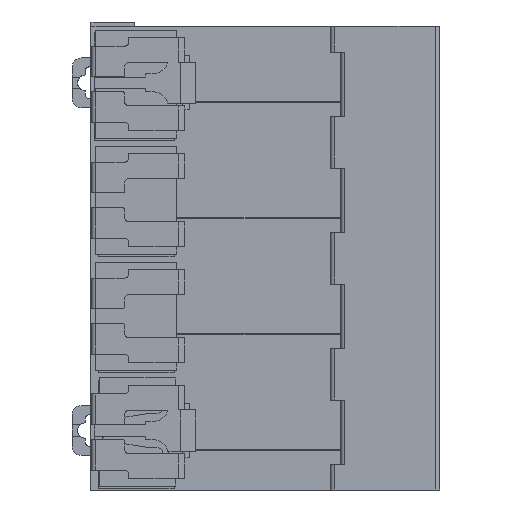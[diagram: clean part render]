
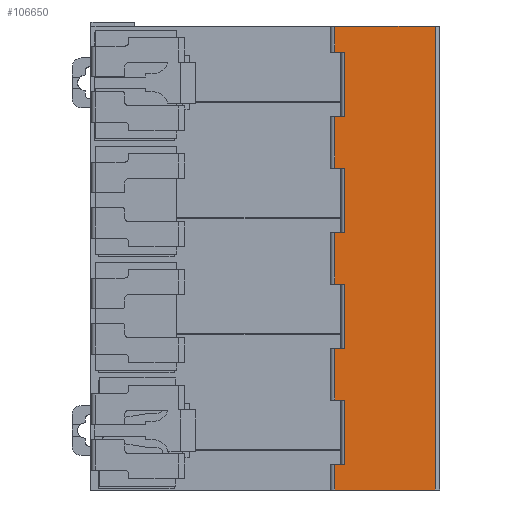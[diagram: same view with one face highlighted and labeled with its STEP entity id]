
A CAD part, front view. The second image highlights one B-rep face of the part: STEP entity #106650.
In plain terms, the highlighted planar face has unit normal (0, -1, 0).
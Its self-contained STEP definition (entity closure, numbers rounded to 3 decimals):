
#7392=DIRECTION('',(0.,0.,1.));
#7393=VECTOR('',#7392,107.2);
#7394=CARTESIAN_POINT('',(33.4,-58.5,-13.4));
#7395=LINE('',#7394,#7393);
#7400=DIRECTION('',(-1.,0.,0.));
#7401=VECTOR('',#7400,2.4);
#7402=CARTESIAN_POINT('',(12.5,-58.5,87.8));
#7403=LINE('',#7402,#7401);
#7404=DIRECTION('',(1.,0.,0.));
#7405=VECTOR('',#7404,2.4);
#7406=CARTESIAN_POINT('',(10.1,-58.5,-7.4));
#7407=LINE('',#7406,#7405);
#7408=DIRECTION('',(-1.,0.,0.));
#7409=VECTOR('',#7408,2.4);
#7410=CARTESIAN_POINT('',(12.5,-58.5,7.4));
#7411=LINE('',#7410,#7409);
#7412=DIRECTION('',(1.,0.,0.));
#7413=VECTOR('',#7412,2.4);
#7414=CARTESIAN_POINT('',(10.1,-58.5,19.4));
#7415=LINE('',#7414,#7413);
#7416=DIRECTION('',(-1.,0.,0.));
#7417=VECTOR('',#7416,2.4);
#7418=CARTESIAN_POINT('',(12.5,-58.5,34.2));
#7419=LINE('',#7418,#7417);
#7420=DIRECTION('',(1.,0.,0.));
#7421=VECTOR('',#7420,2.4);
#7422=CARTESIAN_POINT('',(10.1,-58.5,46.2));
#7423=LINE('',#7422,#7421);
#7424=DIRECTION('',(-1.,0.,0.));
#7425=VECTOR('',#7424,2.4);
#7426=CARTESIAN_POINT('',(12.5,-58.5,61.));
#7427=LINE('',#7426,#7425);
#7428=DIRECTION('',(1.,0.,0.));
#7429=VECTOR('',#7428,2.4);
#7430=CARTESIAN_POINT('',(10.1,-58.5,73.));
#7431=LINE('',#7430,#7429);
#7432=DIRECTION('',(0.,0.,-1.));
#7433=VECTOR('',#7432,14.8);
#7434=CARTESIAN_POINT('',(12.5,-58.5,87.8));
#7435=LINE('',#7434,#7433);
#8693=DIRECTION('',(1.,0.,0.));
#8694=VECTOR('',#8693,23.3);
#8695=CARTESIAN_POINT('',(10.1,-58.5,-13.4));
#8696=LINE('',#8695,#8694);
#14121=DIRECTION('',(0.,0.,-1.));
#14122=VECTOR('',#14121,14.8);
#14123=CARTESIAN_POINT('',(12.5,-58.5,7.4));
#14124=LINE('',#14123,#14122);
#14161=DIRECTION('',(0.,0.,-1.));
#14162=VECTOR('',#14161,14.8);
#14163=CARTESIAN_POINT('',(12.5,-58.5,34.2));
#14164=LINE('',#14163,#14162);
#14201=DIRECTION('',(0.,0.,-1.));
#14202=VECTOR('',#14201,14.8);
#14203=CARTESIAN_POINT('',(12.5,-58.5,61.));
#14204=LINE('',#14203,#14202);
#14241=DIRECTION('',(0.,0.,-1.));
#14242=VECTOR('',#14241,12.);
#14243=CARTESIAN_POINT('',(10.1,-58.5,73.));
#14244=LINE('',#14243,#14242);
#14261=DIRECTION('',(0.,0.,-1.));
#14262=VECTOR('',#14261,12.);
#14263=CARTESIAN_POINT('',(10.1,-58.5,46.2));
#14264=LINE('',#14263,#14262);
#14281=DIRECTION('',(0.,0.,-1.));
#14282=VECTOR('',#14281,12.);
#14283=CARTESIAN_POINT('',(10.1,-58.5,19.4));
#14284=LINE('',#14283,#14282);
#14301=DIRECTION('',(0.,0.,-1.));
#14302=VECTOR('',#14301,6.);
#14303=CARTESIAN_POINT('',(10.1,-58.5,-7.4));
#14304=LINE('',#14303,#14302);
#14622=DIRECTION('',(-1.,0.,0.));
#14623=VECTOR('',#14622,23.3);
#14624=CARTESIAN_POINT('',(33.4,-58.5,93.8));
#14625=LINE('',#14624,#14623);
#19989=DIRECTION('',(0.,0.,-1.));
#19990=VECTOR('',#19989,6.);
#19991=CARTESIAN_POINT('',(10.1,-58.5,93.8));
#19992=LINE('',#19991,#19990);
#75999=CARTESIAN_POINT('',(10.1,-58.5,-13.4));
#76000=VERTEX_POINT('',#75999);
#76001=CARTESIAN_POINT('',(33.4,-58.5,-13.4));
#76002=VERTEX_POINT('',#76001);
#76704=CARTESIAN_POINT('',(12.5,-58.5,-7.4));
#76705=VERTEX_POINT('',#76704);
#76706=CARTESIAN_POINT('',(10.1,-58.5,-7.4));
#76707=VERTEX_POINT('',#76706);
#81110=CARTESIAN_POINT('',(12.5,-58.5,7.4));
#81111=CARTESIAN_POINT('',(10.1,-58.5,7.4));
#81112=VERTEX_POINT('',#81110);
#81113=VERTEX_POINT('',#81111);
#82391=CARTESIAN_POINT('',(10.1,-58.5,19.4));
#82392=CARTESIAN_POINT('',(12.5,-58.5,19.4));
#82393=VERTEX_POINT('',#82391);
#82394=VERTEX_POINT('',#82392);
#84707=CARTESIAN_POINT('',(12.5,-58.5,34.2));
#84708=CARTESIAN_POINT('',(10.1,-58.5,34.2));
#84709=VERTEX_POINT('',#84707);
#84710=VERTEX_POINT('',#84708);
#85941=CARTESIAN_POINT('',(10.1,-58.5,46.2));
#85942=CARTESIAN_POINT('',(12.5,-58.5,46.2));
#85943=VERTEX_POINT('',#85941);
#85944=VERTEX_POINT('',#85942);
#88257=CARTESIAN_POINT('',(12.5,-58.5,61.));
#88258=CARTESIAN_POINT('',(10.1,-58.5,61.));
#88259=VERTEX_POINT('',#88257);
#88260=VERTEX_POINT('',#88258);
#89507=CARTESIAN_POINT('',(10.1,-58.5,73.));
#89508=CARTESIAN_POINT('',(12.5,-58.5,73.));
#89509=VERTEX_POINT('',#89507);
#89510=VERTEX_POINT('',#89508);
#92275=CARTESIAN_POINT('',(33.4,-58.5,93.8));
#92276=VERTEX_POINT('',#92275);
#92277=CARTESIAN_POINT('',(10.1,-58.5,93.8));
#92278=VERTEX_POINT('',#92277);
#93150=CARTESIAN_POINT('',(12.5,-58.5,87.8));
#93151=CARTESIAN_POINT('',(10.1,-58.5,87.8));
#93152=VERTEX_POINT('',#93150);
#93153=VERTEX_POINT('',#93151);
#106604=CARTESIAN_POINT('',(11.5,-58.5,0.));
#106605=DIRECTION('',(0.,-1.,0.));
#106606=DIRECTION('',(1.,0.,0.));
#106607=AXIS2_PLACEMENT_3D('',#106604,#106605,#106606);
#106608=PLANE('',#106607);
#106610=ORIENTED_EDGE('',*,*,#106609,.F.);
#106612=ORIENTED_EDGE('',*,*,#106611,.T.);
#106614=ORIENTED_EDGE('',*,*,#106613,.F.);
#106616=ORIENTED_EDGE('',*,*,#106615,.F.);
#106617=ORIENTED_EDGE('',*,*,#106594,.F.);
#106619=ORIENTED_EDGE('',*,*,#106618,.F.);
#106621=ORIENTED_EDGE('',*,*,#106620,.F.);
#106623=ORIENTED_EDGE('',*,*,#106622,.T.);
#106625=ORIENTED_EDGE('',*,*,#106624,.F.);
#106627=ORIENTED_EDGE('',*,*,#106626,.T.);
#106629=ORIENTED_EDGE('',*,*,#106628,.F.);
#106631=ORIENTED_EDGE('',*,*,#106630,.T.);
#106633=ORIENTED_EDGE('',*,*,#106632,.F.);
#106635=ORIENTED_EDGE('',*,*,#106634,.T.);
#106637=ORIENTED_EDGE('',*,*,#106636,.F.);
#106639=ORIENTED_EDGE('',*,*,#106638,.T.);
#106641=ORIENTED_EDGE('',*,*,#106640,.F.);
#106643=ORIENTED_EDGE('',*,*,#106642,.T.);
#106645=ORIENTED_EDGE('',*,*,#106644,.F.);
#106647=ORIENTED_EDGE('',*,*,#106646,.T.);
#106648=EDGE_LOOP('',(#106610,#106612,#106614,#106616,#106617,#106619,#106621,
#106623,#106625,#106627,#106629,#106631,#106633,#106635,#106637,#106639,#106641,
#106643,#106645,#106647));
#106649=FACE_OUTER_BOUND('',#106648,.F.);
#106650=ADVANCED_FACE('',(#106649),#106608,.T.);
#106594=EDGE_CURVE('',#76002,#92276,#7395,.T.);
#106609=EDGE_CURVE('',#93152,#89510,#7435,.T.);
#106611=EDGE_CURVE('',#93152,#93153,#7403,.T.);
#106613=EDGE_CURVE('',#92278,#93153,#19992,.T.);
#106615=EDGE_CURVE('',#92276,#92278,#14625,.T.);
#106618=EDGE_CURVE('',#76000,#76002,#8696,.T.);
#106620=EDGE_CURVE('',#76707,#76000,#14304,.T.);
#106622=EDGE_CURVE('',#76707,#76705,#7407,.T.);
#106624=EDGE_CURVE('',#81112,#76705,#14124,.T.);
#106626=EDGE_CURVE('',#81112,#81113,#7411,.T.);
#106628=EDGE_CURVE('',#82393,#81113,#14284,.T.);
#106630=EDGE_CURVE('',#82393,#82394,#7415,.T.);
#106632=EDGE_CURVE('',#84709,#82394,#14164,.T.);
#106634=EDGE_CURVE('',#84709,#84710,#7419,.T.);
#106636=EDGE_CURVE('',#85943,#84710,#14264,.T.);
#106638=EDGE_CURVE('',#85943,#85944,#7423,.T.);
#106640=EDGE_CURVE('',#88259,#85944,#14204,.T.);
#106642=EDGE_CURVE('',#88259,#88260,#7427,.T.);
#106644=EDGE_CURVE('',#89509,#88260,#14244,.T.);
#106646=EDGE_CURVE('',#89509,#89510,#7431,.T.);
